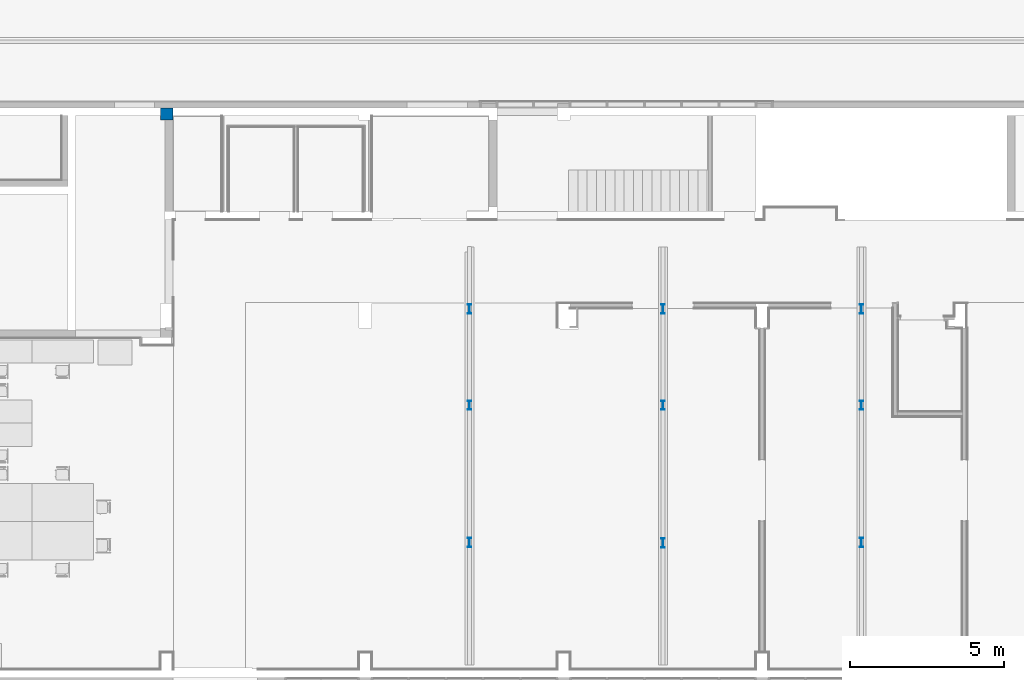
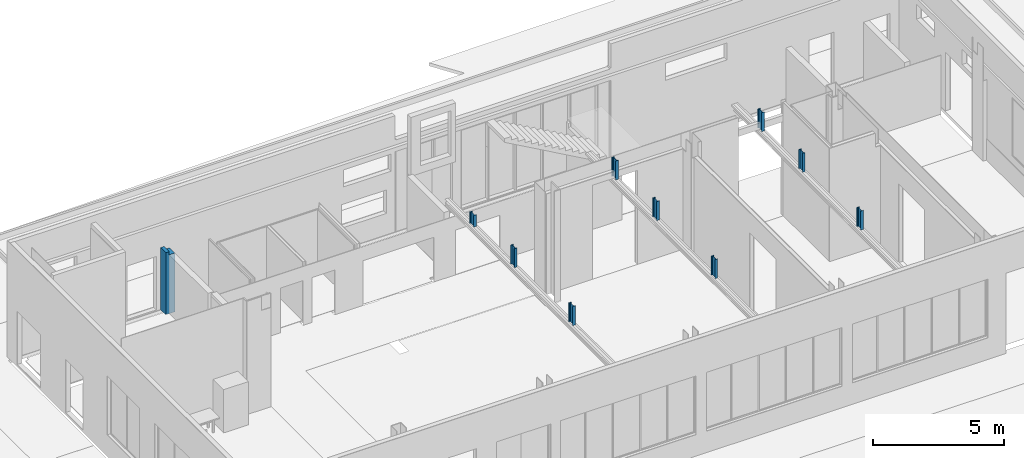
# One storey, part 1 of 27: 10 columns.
"""IFC2X3 building model written with IfcOpenShell, lengths in centimetres."""

from ifc_helpers import new_model, entity, si_unit, converted_unit, derived_unit, direction, frame, frame_2d, origin, place, context, subcontext, project, spatial, polyline, circle_curve, parameter, trimmed, segment, composite_curve, outline, extrude, faceted_brep, source, transform, mapped, material, type_object, type_shapes, element, save


model = new_model("IFC2X3")

# Units and contexts
model_context = context("Model", 3, precision=0.001, world=origin(), true_north=direction((6.12303176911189e-17, 1.0)))
body_context = subcontext(model_context, "Body", "Model", "MODEL_VIEW")
ifc_project = project(units=[si_unit("LENGTHUNIT", "METRE", prefix="CENTI"), si_unit("AREAUNIT", "SQUARE_METRE"), si_unit("VOLUMEUNIT", "CUBIC_METRE"), converted_unit("PLANEANGLEUNIT", "DEGREE", entity("IfcRatioMeasure", 0.0174532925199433), si_unit("PLANEANGLEUNIT", "RADIAN"), dimensions=[0, 0, 0, 0, 0, 0, 0]), si_unit("MASSUNIT", "GRAM", prefix="KILO"), derived_unit("MASSDENSITYUNIT", [(si_unit("MASSUNIT", "GRAM", prefix="KILO"), 1), (si_unit("LENGTHUNIT", "METRE"), -3)]), derived_unit("MOMENTOFINERTIAUNIT", [(si_unit("LENGTHUNIT", "METRE"), 4)]), si_unit("TIMEUNIT", "SECOND"), si_unit("FREQUENCYUNIT", "HERTZ"), si_unit("THERMODYNAMICTEMPERATUREUNIT", "DEGREE_CELSIUS"), derived_unit("THERMALTRANSMITTANCEUNIT", [(si_unit("MASSUNIT", "GRAM", prefix="KILO"), 1), (si_unit("THERMODYNAMICTEMPERATUREUNIT", "KELVIN"), -1), (si_unit("TIMEUNIT", "SECOND"), -3)]), derived_unit("VOLUMETRICFLOWRATEUNIT", [(si_unit("LENGTHUNIT", "METRE"), 3), (si_unit("TIMEUNIT", "SECOND"), -1)]), si_unit("ELECTRICCURRENTUNIT", "AMPERE"), si_unit("ELECTRICVOLTAGEUNIT", "VOLT"), si_unit("POWERUNIT", "WATT"), si_unit("FORCEUNIT", "NEWTON", prefix="KILO"), si_unit("ILLUMINANCEUNIT", "LUX"), si_unit("LUMINOUSFLUXUNIT", "LUMEN"), si_unit("LUMINOUSINTENSITYUNIT", "CANDELA"), derived_unit("USERDEFINED", [(si_unit("MASSUNIT", "GRAM", prefix="KILO"), -1), (si_unit("LENGTHUNIT", "METRE"), -2), (si_unit("TIMEUNIT", "SECOND"), 3), (si_unit("LUMINOUSFLUXUNIT", "LUMEN"), 1)]), derived_unit("LINEARVELOCITYUNIT", [(si_unit("LENGTHUNIT", "METRE"), 1), (si_unit("TIMEUNIT", "SECOND"), -1)]), si_unit("PRESSUREUNIT", "PASCAL"), derived_unit("USERDEFINED", [(si_unit("LENGTHUNIT", "METRE"), -2), (si_unit("MASSUNIT", "GRAM", prefix="KILO"), 1), (si_unit("TIMEUNIT", "SECOND"), -2)]), derived_unit("LINEARFORCEUNIT", [(si_unit("MASSUNIT", "GRAM", prefix="KILO"), 1), (si_unit("LENGTHUNIT", "METRE"), 1), (si_unit("TIMEUNIT", "SECOND"), -2), (si_unit("LENGTHUNIT", "METRE"), -1)]), derived_unit("PLANARFORCEUNIT", [(si_unit("MASSUNIT", "GRAM", prefix="KILO"), 1), (si_unit("LENGTHUNIT", "METRE"), 1), (si_unit("TIMEUNIT", "SECOND"), -2), (si_unit("LENGTHUNIT", "METRE"), -2)])], contexts=[model_context])

# Site, building, storey
site_placement = place(None, origin())
site = spatial("IfcSite", under=ifc_project, at=site_placement, Name="Default", CompositionType="ELEMENT")
building_placement = place(site_placement, origin())
building = spatial("IfcBuilding", under=site, at=building_placement, CompositionType="ELEMENT")
storey_placement = place(building_placement, origin())
storey = spatial("IfcBuildingStorey", under=building, at=storey_placement, Name="Poziom 0 A +/-0,00", CompositionType="ELEMENT", Elevation=3.38570427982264e-11)

# Columns
ifc_material_1 = material(Name="_Beton, C25/30")
column_type_1 = type_object("IfcColumnType", Name="Beton-słup prostokątny:Słup żelbetowy 40x40cm", PredefinedType="COLUMN", material=ifc_material_1)
shared_shape_1 = source(origin(), body_context, "Body", "Brep", [
    faceted_brep([(0.0, 40.0, 290.0), (0.0, 0.0, 290.0), (14.9999821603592, 0.0, 290.0), (14.9999821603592, 40.0, 290.0), (40.0, 40.0, 0.0), (40.0, 15.0, 0.0), (40.0, 0.0, 0.0), (14.9999821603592, 0.0, 0.0), (0.0, 0.0, 0.0), (0.0, 40.0, 0.0), (14.9999821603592, 40.0, 275.0), (40.0, 40.0, 275.0), (40.0, 0.0, 275.0), (14.9999821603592, 0.0, 275.0), (40.0, 15.0, 275.0), (14.9999821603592, 39.9999985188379, 275.0)], [[[0, 1, 2, 3]], [[4, 5, 6, 7, 8, 9]], [[4, 9, 0, 3, 10, 11]], [[1, 0, 9, 8]], [[8, 7, 6, 12, 13, 2, 1]], [[6, 5, 4, 11, 14, 12]], [[15, 13, 12, 14, 11]], [[13, 10, 3, 2]]]),
])
type_shapes(column_type_1, [shared_shape_1])
column_1_placement = place(storey_placement, frame((-2289.26510657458, 2065.12745207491, 0.0)))
element("IfcColumn", 1, at=column_1_placement, inside=storey, type_object=column_type_1, material=ifc_material_1, Name="Beton-słup prostokątny:Słup żelbetowy 40x40cm", ObjectType="Beton-słup prostokątny:Słup żelbetowy 40x40cm", context=body_context, shape_type="MappedRepresentation", body=[
    mapped(shared_shape_1, transform((0.0, 0.0, 0.0), scale=1.0)),
])
ifc_material_2 = material(Name="Stal konstrukcyjna - S235")
column_type_2 = type_object("IfcColumnType", Name="Słup IN:IN300", PredefinedType="COLUMN", material=ifc_material_2)
shared_shape_2 = source(origin(), body_context, "Body", "SweptSolid", [
    extrude(outline(composite_curve([segment(polyline([(14.3828568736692, -6.25), (15.0, -6.25)]), True, "CONTINUOUS"), segment(polyline([(15.0, -6.25), (15.0, 6.25)]), True, "CONTINUOUS"), segment(polyline([(15.0, 6.25), (14.3828568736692, 6.25)]), True, "CONTINUOUS"), segment(trimmed(circle_curve(frame_2d((14.3828568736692, 5.6), x_axis=(0.0, 1.0)), 0.65), [parameter(0.0)], [parameter(82.0300000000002)], True, "PARAMETER"), True, "CONTINUOUS"), segment(polyline([(13.7391353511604, 5.69012547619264), (13.1483239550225, 1.4702530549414)]), True, "CONTINUOUS"), segment(trimmed(circle_curve(frame_2d((12.078755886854, 1.61999999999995), x_axis=(0.990340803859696, -0.1386545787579)), 1.08000000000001), [parameter(277.970000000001)], [parameter(0.0)], True, "PARAMETER"), False, "CONTINUOUS"), segment(polyline([(12.078755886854, 0.539999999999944), (-12.0787558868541, 0.539999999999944)]), True, "CONTINUOUS"), segment(trimmed(circle_curve(frame_2d((-12.0787558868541, 1.61999999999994), x_axis=(0.0, -1.0)), 1.08), [parameter(277.970000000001)], [parameter(0.0)], True, "PARAMETER"), False, "CONTINUOUS"), segment(polyline([(-13.1483239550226, 1.4702530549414), (-13.7391353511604, 5.69012547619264)]), True, "CONTINUOUS"), segment(trimmed(circle_curve(frame_2d((-14.3828568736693, 5.6), x_axis=(0.990340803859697, 0.138654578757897)), 0.650000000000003), [parameter(0.0)], [parameter(82.0299999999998)], True, "PARAMETER"), True, "CONTINUOUS"), segment(polyline([(-14.3828568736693, 6.25), (-15.0, 6.25)]), True, "CONTINUOUS"), segment(polyline([(-15.0, 6.25), (-15.0, -6.25)]), True, "CONTINUOUS"), segment(polyline([(-15.0, -6.25), (-14.3828568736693, -6.25)]), True, "CONTINUOUS"), segment(trimmed(circle_curve(frame_2d((-14.3828568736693, -5.6), x_axis=(0.0, -1.0)), 0.65), [parameter(0.0)], [parameter(82.0299999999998)], True, "PARAMETER"), True, "CONTINUOUS"), segment(polyline([(-13.7391353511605, -5.69012547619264), (-13.1483239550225, -1.47025305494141)]), True, "CONTINUOUS"), segment(trimmed(circle_curve(frame_2d((-12.0787558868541, -1.61999999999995), x_axis=(-0.990340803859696, 0.1386545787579)), 1.08), [parameter(277.97)], [parameter(0.0)], True, "PARAMETER"), False, "CONTINUOUS"), segment(polyline([(-12.0787558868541, -0.539999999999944), (12.0787558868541, -0.539999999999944)]), True, "CONTINUOUS"), segment(trimmed(circle_curve(frame_2d((12.0787558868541, -1.61999999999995), x_axis=(0.0, 1.0)), 1.08000000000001), [parameter(277.97)], [parameter(0.0)], True, "PARAMETER"), False, "CONTINUOUS"), segment(polyline([(13.1483239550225, -1.47025305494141), (13.7391353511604, -5.69012547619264)]), True, "CONTINUOUS"), segment(trimmed(circle_curve(frame_2d((14.3828568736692, -5.6), x_axis=(-0.990340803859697, -0.138654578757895)), 0.649999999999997), [parameter(0.0)], [parameter(82.0300000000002)], True, "PARAMETER"), True, "CONTINUOUS")], self_intersect=False)), frame((0.0, 0.0, 441.0), z_axis=(0.0, 0.0, 1.0), x_axis=(0.0, -1.0, 0.0)), (0.0, 0.0, 1.0), 88.9999999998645),
])
type_shapes(column_type_2, [shared_shape_2])
for number, where in (
    (2, (-1285.26508136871, 693.076789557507, 0.0)),
    (3, (-1285.26508136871, 1139.07672697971, 0.0)),
    (4, (-656.765099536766, 1139.07672697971, 0.0)),
    (5, (-656.765099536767, 691.554795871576, 0.0)),
    (6, (-11.7650813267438, 693.076789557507, 0.0)),
    (7, (-11.7650813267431, 1139.07672697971, 0.0)),
    (8, (-11.7650813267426, 1452.0767292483, 0.0)),
    (9, (-656.765099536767, 1452.0767292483, 0.0)),
):
    element("IfcColumn", number, at=place(storey_placement, frame(where)), inside=storey, type_object=column_type_2, Name="Słup IN:IN300", ObjectType="Słup IN:IN300", context=body_context, shape_type="MappedRepresentation", body=[
        mapped(shared_shape_2, transform((0.0, 0.0, 0.0), scale=1.0)),
    ])
column_type_3 = type_object("IfcColumnType", Name="Słup IN:IN300", PredefinedType="COLUMN", material=ifc_material_2)
shared_shape_3 = source(origin(), body_context, "Body", "SweptSolid", [
    extrude(outline(composite_curve([segment(polyline([(14.3828568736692, -6.25), (15.0, -6.25)]), True, "CONTINUOUS"), segment(polyline([(15.0, -6.25), (15.0, 6.25)]), True, "CONTINUOUS"), segment(polyline([(15.0, 6.25), (14.3828568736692, 6.25)]), True, "CONTINUOUS"), segment(trimmed(circle_curve(frame_2d((14.3828568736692, 5.6), x_axis=(0.0, 1.0)), 0.65), [parameter(0.0)], [parameter(82.0300000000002)], True, "PARAMETER"), True, "CONTINUOUS"), segment(polyline([(13.7391353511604, 5.69012547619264), (13.1483239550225, 1.4702530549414)]), True, "CONTINUOUS"), segment(trimmed(circle_curve(frame_2d((12.078755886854, 1.61999999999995), x_axis=(0.990340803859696, -0.1386545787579)), 1.08000000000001), [parameter(277.970000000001)], [parameter(0.0)], True, "PARAMETER"), False, "CONTINUOUS"), segment(polyline([(12.078755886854, 0.539999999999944), (-12.0787558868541, 0.539999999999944)]), True, "CONTINUOUS"), segment(trimmed(circle_curve(frame_2d((-12.0787558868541, 1.61999999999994), x_axis=(0.0, -1.0)), 1.08), [parameter(277.970000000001)], [parameter(0.0)], True, "PARAMETER"), False, "CONTINUOUS"), segment(polyline([(-13.1483239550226, 1.4702530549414), (-13.7391353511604, 5.69012547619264)]), True, "CONTINUOUS"), segment(trimmed(circle_curve(frame_2d((-14.3828568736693, 5.6), x_axis=(0.990340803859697, 0.138654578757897)), 0.650000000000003), [parameter(0.0)], [parameter(82.0299999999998)], True, "PARAMETER"), True, "CONTINUOUS"), segment(polyline([(-14.3828568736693, 6.25), (-15.0, 6.25)]), True, "CONTINUOUS"), segment(polyline([(-15.0, 6.25), (-15.0, -6.25)]), True, "CONTINUOUS"), segment(polyline([(-15.0, -6.25), (-14.3828568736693, -6.25)]), True, "CONTINUOUS"), segment(trimmed(circle_curve(frame_2d((-14.3828568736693, -5.6), x_axis=(0.0, -1.0)), 0.65), [parameter(0.0)], [parameter(82.0299999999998)], True, "PARAMETER"), True, "CONTINUOUS"), segment(polyline([(-13.7391353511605, -5.69012547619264), (-13.1483239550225, -1.47025305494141)]), True, "CONTINUOUS"), segment(trimmed(circle_curve(frame_2d((-12.0787558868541, -1.61999999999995), x_axis=(-0.990340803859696, 0.1386545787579)), 1.08), [parameter(277.97)], [parameter(0.0)], True, "PARAMETER"), False, "CONTINUOUS"), segment(polyline([(-12.0787558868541, -0.539999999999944), (12.0787558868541, -0.539999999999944)]), True, "CONTINUOUS"), segment(trimmed(circle_curve(frame_2d((12.0787558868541, -1.61999999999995), x_axis=(0.0, 1.0)), 1.08000000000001), [parameter(277.97)], [parameter(0.0)], True, "PARAMETER"), False, "CONTINUOUS"), segment(polyline([(13.1483239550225, -1.47025305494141), (13.7391353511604, -5.69012547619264)]), True, "CONTINUOUS"), segment(trimmed(circle_curve(frame_2d((14.3828568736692, -5.6), x_axis=(-0.990340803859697, -0.138654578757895)), 0.649999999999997), [parameter(0.0)], [parameter(82.0300000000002)], True, "PARAMETER"), True, "CONTINUOUS")], self_intersect=False)), frame((0.0, 0.0, 441.0), z_axis=(0.0, 0.0, 1.0), x_axis=(0.0, -1.0, 0.0)), (0.0, 0.0, 1.0), 53.9999999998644),
])
type_shapes(column_type_3, [shared_shape_3])
column_2_placement = place(storey_placement, frame((-1285.26508136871, 1452.0767292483, 0.0)))
element("IfcColumn", 10, at=column_2_placement, inside=storey, type_object=column_type_3, Name="Słup IN:IN300", ObjectType="Słup IN:IN300", context=body_context, shape_type="MappedRepresentation", body=[
    mapped(shared_shape_3, transform((0.0, 0.0, 0.0), scale=1.0)),
])

save(model, "model.ifc")
